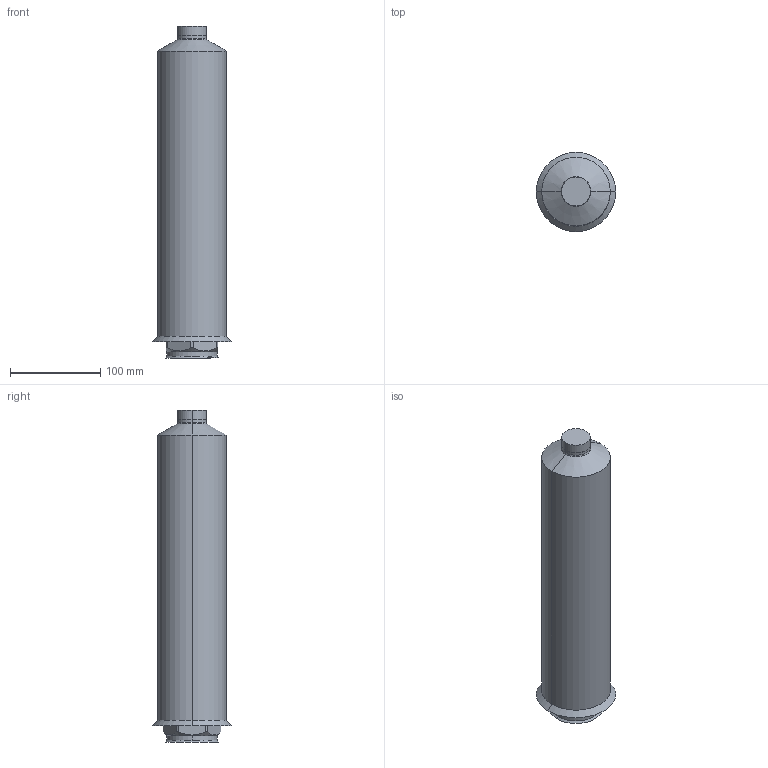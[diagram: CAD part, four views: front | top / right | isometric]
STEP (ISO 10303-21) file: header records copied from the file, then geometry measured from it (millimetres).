
FILE_DESCRIPTION (( 'STEP AP214' ), '1' );
FILE_NAME ('T24_CLOSED_350_HELICAL_76.STEP', '2009-05-11T13:24:38', ( 'Synventive Molding Solutions' ), ( 'Synventive Molding Solutions' ), 'SwSTEP 2.0', 'SolidWorks 2008', '' );
FILE_SCHEMA (( 'AUTOMOTIVE_DESIGN' ));
Length unit declared in the file: millimetre
Products named in the file (1): T24_CLOSED_350_HELICAL_76
Bounding box: 88 x 88 x 368 mm (x, y, z)
Volume: 2300510.8 mm3; surface area: 172984.3 mm2
Topology: 2 solids, 2 shells, 198 faces, 525 edges, 333 vertices
Faces by surface type: cylinder 73, plane 68, bspline 27, torus 18, cone 12
Entity records: 18011 total; most frequent: CARTESIAN_POINT 11236, ORIENTED_EDGE 1050, DIRECTION 879, EDGE_CURVE 525, VERTEX_POINT 333, AXIS2_PLACEMENT_3D 333, LINE 213, VECTOR 213
